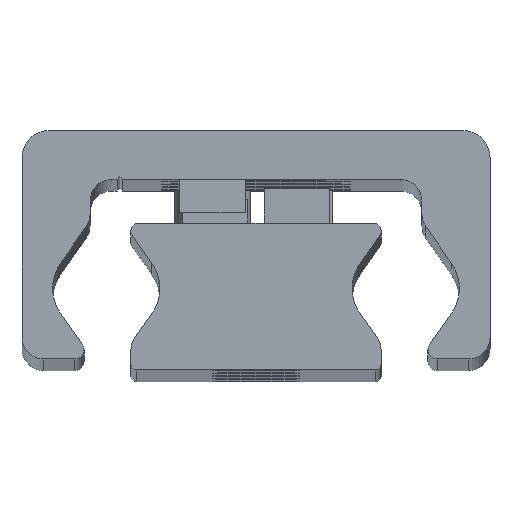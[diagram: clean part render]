
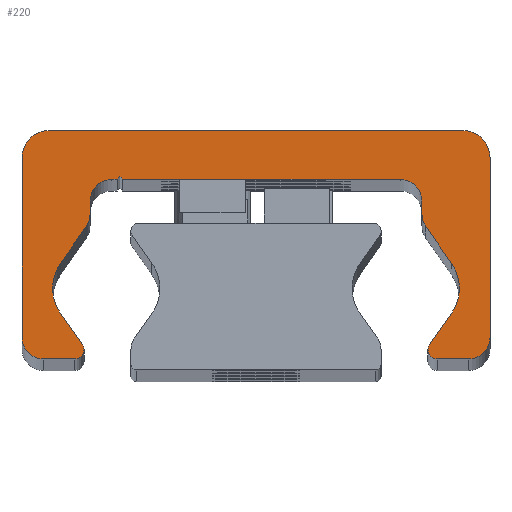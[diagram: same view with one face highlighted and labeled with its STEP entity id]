
A CAD part, top view. The second image highlights one B-rep face of the part: STEP entity #220.
In plain terms, the highlighted planar face has unit normal (0, 0, 1).
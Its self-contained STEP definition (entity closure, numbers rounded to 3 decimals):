
#220=ADVANCED_FACE('',(#570),#571,.T.);
#570=FACE_OUTER_BOUND('',#921,.T.);
#571=PLANE('',#922);
#921=EDGE_LOOP('',(#2122,#2123,#2124,#2125,#2126,#2127,#2128,#2129,#2130,#2131,#2132,#2133,#2134,#2135,#2136,#2137,#2138,#2139,#2140,#2141,#2142,#2143,#2144,#2145,#2146,#2147,#2148,#2149,#2150,#2151));
#922=AXIS2_PLACEMENT_3D('',#2152,#2153,#2154);
#2122=ORIENTED_EDGE('',*,*,#2399,.F.);
#2123=ORIENTED_EDGE('',*,*,#2582,.F.);
#2124=ORIENTED_EDGE('',*,*,#2385,.F.);
#2125=ORIENTED_EDGE('',*,*,#2581,.F.);
#2126=ORIENTED_EDGE('',*,*,#2577,.F.);
#2127=ORIENTED_EDGE('',*,*,#2574,.F.);
#2128=ORIENTED_EDGE('',*,*,#2571,.F.);
#2129=ORIENTED_EDGE('',*,*,#2568,.F.);
#2130=ORIENTED_EDGE('',*,*,#2565,.F.);
#2131=ORIENTED_EDGE('',*,*,#2562,.F.);
#2132=ORIENTED_EDGE('',*,*,#2559,.F.);
#2133=ORIENTED_EDGE('',*,*,#2556,.F.);
#2134=ORIENTED_EDGE('',*,*,#2553,.F.);
#2135=ORIENTED_EDGE('',*,*,#2550,.F.);
#2136=ORIENTED_EDGE('',*,*,#2391,.F.);
#2137=ORIENTED_EDGE('',*,*,#2548,.F.);
#2138=ORIENTED_EDGE('',*,*,#2393,.F.);
#2139=ORIENTED_EDGE('',*,*,#2547,.F.);
#2140=ORIENTED_EDGE('',*,*,#2543,.F.);
#2141=ORIENTED_EDGE('',*,*,#2540,.F.);
#2142=ORIENTED_EDGE('',*,*,#2537,.F.);
#2143=ORIENTED_EDGE('',*,*,#2534,.F.);
#2144=ORIENTED_EDGE('',*,*,#2531,.F.);
#2145=ORIENTED_EDGE('',*,*,#2528,.F.);
#2146=ORIENTED_EDGE('',*,*,#2525,.F.);
#2147=ORIENTED_EDGE('',*,*,#2522,.F.);
#2148=ORIENTED_EDGE('',*,*,#2519,.F.);
#2149=ORIENTED_EDGE('',*,*,#2516,.F.);
#2150=ORIENTED_EDGE('',*,*,#2513,.F.);
#2151=ORIENTED_EDGE('',*,*,#2510,.F.);
#2152=CARTESIAN_POINT('',(-0.023,14.187,610.0));
#2153=DIRECTION('',(0.0,0.0,1.0));
#2154=DIRECTION('',(1.0,0.0,0.0));
#2385=EDGE_CURVE('',#2900,#2903,#2904,.T.);
#2391=EDGE_CURVE('',#2913,#2909,#2915,.T.);
#2393=EDGE_CURVE('',#2916,#2919,#2920,.T.);
#2399=EDGE_CURVE('',#2929,#2925,#2931,.T.);
#2510=EDGE_CURVE('',#2925,#3110,#3111,.T.);
#2513=EDGE_CURVE('',#3110,#3115,#3116,.T.);
#2516=EDGE_CURVE('',#3115,#3120,#3121,.T.);
#2519=EDGE_CURVE('',#3120,#3125,#3126,.T.);
#2522=EDGE_CURVE('',#3125,#3130,#3131,.T.);
#2525=EDGE_CURVE('',#3130,#3135,#3136,.T.);
#2528=EDGE_CURVE('',#3135,#3140,#3141,.T.);
#2531=EDGE_CURVE('',#3140,#3145,#3146,.T.);
#2534=EDGE_CURVE('',#3145,#3150,#3151,.T.);
#2537=EDGE_CURVE('',#3150,#3155,#3156,.T.);
#2540=EDGE_CURVE('',#3155,#3160,#3161,.T.);
#2543=EDGE_CURVE('',#3160,#3165,#3166,.T.);
#2547=EDGE_CURVE('',#3165,#2916,#3171,.T.);
#2548=EDGE_CURVE('',#2919,#2913,#3172,.T.);
#2550=EDGE_CURVE('',#2909,#3174,#3175,.T.);
#2553=EDGE_CURVE('',#3174,#3179,#3180,.T.);
#2556=EDGE_CURVE('',#3179,#3184,#3185,.T.);
#2559=EDGE_CURVE('',#3184,#3189,#3190,.T.);
#2562=EDGE_CURVE('',#3189,#3194,#3195,.T.);
#2565=EDGE_CURVE('',#3194,#3199,#3200,.T.);
#2568=EDGE_CURVE('',#3199,#3204,#3205,.T.);
#2571=EDGE_CURVE('',#3204,#3209,#3210,.T.);
#2574=EDGE_CURVE('',#3209,#3214,#3215,.T.);
#2577=EDGE_CURVE('',#3214,#3219,#3220,.T.);
#2581=EDGE_CURVE('',#3219,#2900,#3225,.T.);
#2582=EDGE_CURVE('',#2903,#2929,#3226,.T.);
#2900=VERTEX_POINT('',#3652);
#2903=VERTEX_POINT('',#3656);
#2904=CIRCLE('',#3657,0.85);
#2909=VERTEX_POINT('',#3663);
#2913=VERTEX_POINT('',#3668);
#2915=CIRCLE('',#3671,0.85);
#2916=VERTEX_POINT('',#3672);
#2919=VERTEX_POINT('',#3676);
#2920=CIRCLE('',#3677,4.);
#2925=VERTEX_POINT('',#3683);
#2929=VERTEX_POINT('',#3688);
#2931=CIRCLE('',#3691,4.);
#3110=VERTEX_POINT('',#3928);
#3111=CIRCLE('',#3929,4.);
#3115=VERTEX_POINT('',#3934);
#3116=LINE('',#3935,#3936);
#3120=VERTEX_POINT('',#3942);
#3121=CIRCLE('',#3943,2.);
#3125=VERTEX_POINT('',#3948);
#3126=LINE('',#3949,#3950);
#3130=VERTEX_POINT('',#3956);
#3131=CIRCLE('',#3957,2.0);
#3135=VERTEX_POINT('',#3962);
#3136=LINE('',#3963,#3964);
#3140=VERTEX_POINT('',#3970);
#3141=CIRCLE('',#3971,0.25);
#3145=VERTEX_POINT('',#3976);
#3146=LINE('',#3977,#3978);
#3150=VERTEX_POINT('',#3984);
#3151=CIRCLE('',#3985,2.0);
#3155=VERTEX_POINT('',#3990);
#3156=LINE('',#3991,#3992);
#3160=VERTEX_POINT('',#3998);
#3161=CIRCLE('',#3999,2.0);
#3165=VERTEX_POINT('',#4004);
#3166=LINE('',#4005,#4006);
#3171=CIRCLE('',#4013,4.);
#3172=LINE('',#4014,#4015);
#3174=VERTEX_POINT('',#4018);
#3175=CIRCLE('',#4019,0.85);
#3179=VERTEX_POINT('',#4024);
#3180=LINE('',#4025,#4026);
#3184=VERTEX_POINT('',#4032);
#3185=CIRCLE('',#4033,2.);
#3189=VERTEX_POINT('',#4038);
#3190=LINE('',#4039,#4040);
#3194=VERTEX_POINT('',#4046);
#3195=CIRCLE('',#4047,2.5);
#3199=VERTEX_POINT('',#4052);
#3200=LINE('',#4053,#4054);
#3204=VERTEX_POINT('',#4060);
#3205=CIRCLE('',#4061,2.5);
#3209=VERTEX_POINT('',#4066);
#3210=LINE('',#4067,#4068);
#3214=VERTEX_POINT('',#4074);
#3215=CIRCLE('',#4075,2.);
#3219=VERTEX_POINT('',#4080);
#3220=LINE('',#4081,#4082);
#3225=CIRCLE('',#4089,0.85);
#3226=LINE('',#4090,#4091);
#3652=CARTESIAN_POINT('',(15.8,1.859,610.0));
#3656=CARTESIAN_POINT('',(15.922,2.298,610.0));
#3657=AXIS2_PLACEMENT_3D('',#4467,#4468,#4469);
#3663=CARTESIAN_POINT('',(-15.8,1.859,610.0));
#3668=CARTESIAN_POINT('',(-15.922,2.298,610.0));
#3671=AXIS2_PLACEMENT_3D('',#4479,#4480,#4481);
#3672=CARTESIAN_POINT('',(-18.688,7.509,610.0));
#3676=CARTESIAN_POINT('',(-17.964,5.214,610.0));
#3677=AXIS2_PLACEMENT_3D('',#4483,#4484,#4485);
#3683=CARTESIAN_POINT('',(18.688,7.509,610.0));
#3688=CARTESIAN_POINT('',(17.964,5.214,610.0));
#3691=AXIS2_PLACEMENT_3D('',#4495,#4496,#4497);
#3928=CARTESIAN_POINT('',(17.964,9.803,610.0));
#3929=AXIS2_PLACEMENT_3D('',#4712,#4713,#4714);
#3934=CARTESIAN_POINT('',(15.612,13.163,610.0));
#3935=CARTESIAN_POINT('',(15.612,13.163,610.0));
#3936=VECTOR('',#4719,1.0);
#3942=CARTESIAN_POINT('',(15.25,14.31,610.0));
#3943=AXIS2_PLACEMENT_3D('',#4722,#4723,#4724);
#3948=CARTESIAN_POINT('',(15.25,15.509,610.0));
#3949=CARTESIAN_POINT('',(15.25,15.509,610.0));
#3950=VECTOR('',#4729,1.0);
#3956=CARTESIAN_POINT('',(13.25,17.509,610.0));
#3957=AXIS2_PLACEMENT_3D('',#4732,#4733,#4734);
#3962=CARTESIAN_POINT('',(-12.25,17.509,610.0));
#3963=CARTESIAN_POINT('',(-12.25,17.509,610.0));
#3964=VECTOR('',#4739,1.0);
#3970=CARTESIAN_POINT('',(-12.75,17.509,610.0));
#3971=AXIS2_PLACEMENT_3D('',#4742,#4743,#4744);
#3976=CARTESIAN_POINT('',(-13.25,17.509,610.0));
#3977=CARTESIAN_POINT('',(-13.25,17.509,610.0));
#3978=VECTOR('',#4749,1.0);
#3984=CARTESIAN_POINT('',(-15.25,15.509,610.0));
#3985=AXIS2_PLACEMENT_3D('',#4752,#4753,#4754);
#3990=CARTESIAN_POINT('',(-15.25,14.31,610.0));
#3991=CARTESIAN_POINT('',(-15.25,14.31,610.0));
#3992=VECTOR('',#4759,1.0);
#3998=CARTESIAN_POINT('',(-15.612,13.163,610.0));
#3999=AXIS2_PLACEMENT_3D('',#4762,#4763,#4764);
#4004=CARTESIAN_POINT('',(-17.964,9.803,610.0));
#4005=CARTESIAN_POINT('',(-17.964,9.803,610.0));
#4006=VECTOR('',#4769,1.0);
#4013=AXIS2_PLACEMENT_3D('',#4775,#4776,#4777);
#4014=CARTESIAN_POINT('',(-15.922,2.298,610.0));
#4015=VECTOR('',#4778,1.0);
#4018=CARTESIAN_POINT('',(-16.65,1.009,610.0));
#4019=AXIS2_PLACEMENT_3D('',#4780,#4781,#4782);
#4024=CARTESIAN_POINT('',(-19.5,1.009,610.0));
#4025=CARTESIAN_POINT('',(-19.5,1.009,610.0));
#4026=VECTOR('',#4787,1.0);
#4032=CARTESIAN_POINT('',(-21.5,3.009,610.0));
#4033=AXIS2_PLACEMENT_3D('',#4790,#4791,#4792);
#4038=CARTESIAN_POINT('',(-21.5,19.509,610.0));
#4039=CARTESIAN_POINT('',(-21.5,19.509,610.0));
#4040=VECTOR('',#4797,1.0);
#4046=CARTESIAN_POINT('',(-19.0,22.009,610.0));
#4047=AXIS2_PLACEMENT_3D('',#4800,#4801,#4802);
#4052=CARTESIAN_POINT('',(19.0,22.009,610.0));
#4053=CARTESIAN_POINT('',(19.0,22.009,610.0));
#4054=VECTOR('',#4807,1.0);
#4060=CARTESIAN_POINT('',(21.5,19.509,610.0));
#4061=AXIS2_PLACEMENT_3D('',#4810,#4811,#4812);
#4066=CARTESIAN_POINT('',(21.5,3.009,610.0));
#4067=CARTESIAN_POINT('',(21.5,3.009,610.0));
#4068=VECTOR('',#4817,1.0);
#4074=CARTESIAN_POINT('',(19.5,1.009,610.0));
#4075=AXIS2_PLACEMENT_3D('',#4820,#4821,#4822);
#4080=CARTESIAN_POINT('',(16.65,1.009,610.0));
#4081=CARTESIAN_POINT('',(16.65,1.009,610.0));
#4082=VECTOR('',#4827,1.0);
#4089=AXIS2_PLACEMENT_3D('',#4833,#4834,#4835);
#4090=CARTESIAN_POINT('',(17.964,5.214,610.0));
#4091=VECTOR('',#4836,1.0);
#4467=CARTESIAN_POINT('',(16.65,1.859,610.0));
#4468=DIRECTION('',(0.0,0.0,-1.0));
#4469=DIRECTION('',(1.0,0.0,0.0));
#4479=CARTESIAN_POINT('',(-16.65,1.859,610.0));
#4480=DIRECTION('',(0.0,0.0,-1.0));
#4481=DIRECTION('',(1.0,0.0,0.0));
#4483=CARTESIAN_POINT('',(-14.688,7.509,610.0));
#4484=DIRECTION('',(0.0,0.0,1.0));
#4485=DIRECTION('',(1.0,0.0,0.0));
#4495=CARTESIAN_POINT('',(14.688,7.509,610.0));
#4496=DIRECTION('',(0.0,0.0,1.0));
#4497=DIRECTION('',(1.0,0.0,0.0));
#4712=CARTESIAN_POINT('',(14.688,7.509,610.0));
#4713=DIRECTION('',(0.0,0.0,1.0));
#4714=DIRECTION('',(1.0,0.0,0.0));
#4719=DIRECTION('',(-0.574,0.819,0.0));
#4722=CARTESIAN_POINT('',(17.25,14.31,610.0));
#4723=DIRECTION('',(0.0,0.0,-1.0));
#4724=DIRECTION('',(1.0,0.0,0.0));
#4729=DIRECTION('',(0.0,1.0,0.0));
#4732=CARTESIAN_POINT('',(13.25,15.509,610.0));
#4733=DIRECTION('',(0.0,0.0,1.0));
#4734=DIRECTION('',(1.0,0.0,0.0));
#4739=DIRECTION('',(-1.0,-0.0,-0.0));
#4742=CARTESIAN_POINT('',(-12.5,17.509,610.0));
#4743=DIRECTION('',(0.0,0.0,1.0));
#4744=DIRECTION('',(1.0,0.0,0.0));
#4749=DIRECTION('',(-1.0,-0.0,-0.0));
#4752=CARTESIAN_POINT('',(-13.25,15.509,610.0));
#4753=DIRECTION('',(0.0,0.0,1.0));
#4754=DIRECTION('',(1.0,0.0,0.0));
#4759=DIRECTION('',(-0.0,-1.0,-0.0));
#4762=CARTESIAN_POINT('',(-17.25,14.31,610.0));
#4763=DIRECTION('',(0.0,0.0,-1.0));
#4764=DIRECTION('',(1.0,0.0,0.0));
#4769=DIRECTION('',(-0.574,-0.819,-0.0));
#4775=CARTESIAN_POINT('',(-14.688,7.509,610.0));
#4776=DIRECTION('',(0.0,0.0,1.0));
#4777=DIRECTION('',(1.0,0.0,0.0));
#4778=DIRECTION('',(0.574,-0.819,0.0));
#4780=CARTESIAN_POINT('',(-16.65,1.859,610.0));
#4781=DIRECTION('',(0.0,0.0,-1.0));
#4782=DIRECTION('',(1.0,0.0,0.0));
#4787=DIRECTION('',(-1.0,-0.0,-0.0));
#4790=CARTESIAN_POINT('',(-19.5,3.009,610.0));
#4791=DIRECTION('',(0.0,0.0,-1.0));
#4792=DIRECTION('',(1.0,0.0,0.0));
#4797=DIRECTION('',(0.0,1.0,0.0));
#4800=CARTESIAN_POINT('',(-19.0,19.509,610.0));
#4801=DIRECTION('',(0.0,0.0,-1.0));
#4802=DIRECTION('',(1.0,0.0,0.0));
#4807=DIRECTION('',(1.0,0.0,0.0));
#4810=CARTESIAN_POINT('',(19.0,19.509,610.0));
#4811=DIRECTION('',(0.0,0.0,-1.0));
#4812=DIRECTION('',(1.0,0.0,0.0));
#4817=DIRECTION('',(-0.0,-1.0,-0.0));
#4820=CARTESIAN_POINT('',(19.5,3.009,610.0));
#4821=DIRECTION('',(0.0,0.0,-1.0));
#4822=DIRECTION('',(1.0,0.0,0.0));
#4827=DIRECTION('',(-1.0,-0.0,-0.0));
#4833=CARTESIAN_POINT('',(16.65,1.859,610.0));
#4834=DIRECTION('',(0.0,0.0,-1.0));
#4835=DIRECTION('',(1.0,0.0,0.0));
#4836=DIRECTION('',(0.574,0.819,0.0));
